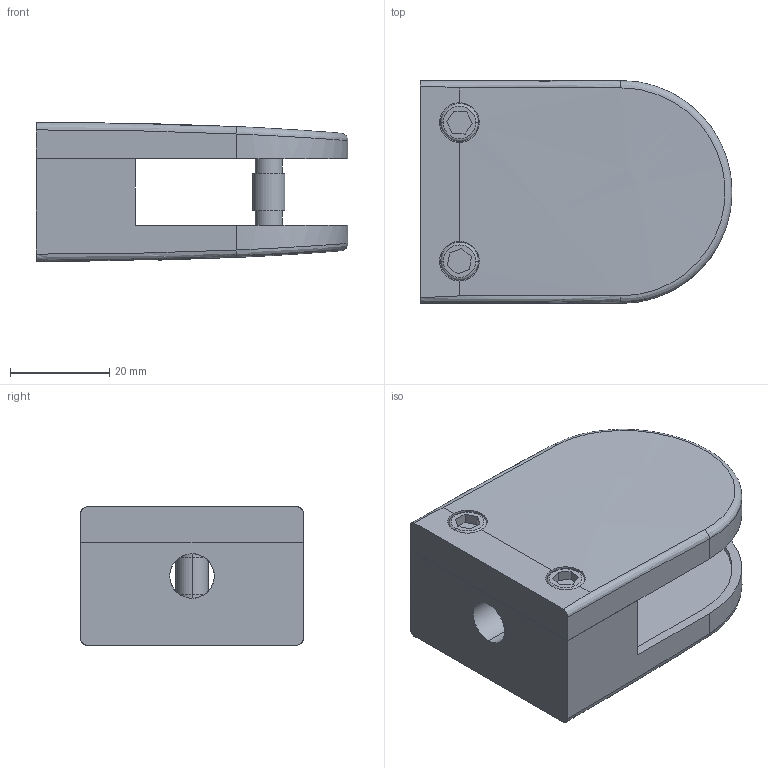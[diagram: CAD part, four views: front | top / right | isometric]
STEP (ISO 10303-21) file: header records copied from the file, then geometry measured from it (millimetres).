
FILE_DESCRIPTION (( 'STEP AP203' ), '1' );
FILE_NAME ('3D_GG4006_G flach _188766110.STEP', '2024-11-04T18:20:18', ( '' ), ( '' ), 'SwSTEP 2.0', 'SolidWorks 2023', '' );
FILE_SCHEMA (( 'CONFIG_CONTROL_DESIGN' ));
Length unit declared in the file: millimetre
Products named in the file (1): 3D_GG4006_G flach _188766110
Bounding box: 63 x 45 x 28 mm (x, y, z)
Volume: 42998.9 mm3; surface area: 17563.1 mm2
Topology: 3 solids, 3 shells, 92 faces, 214 edges, 140 vertices
Faces by surface type: plane 44, cylinder 36, bspline 8, torus 4
Entity records: 3595 total; most frequent: CARTESIAN_POINT 1405, DIRECTION 438, ORIENTED_EDGE 428, EDGE_CURVE 214, AXIS2_PLACEMENT_3D 165, VERTEX_POINT 140, EDGE_LOOP 110, LINE 108
